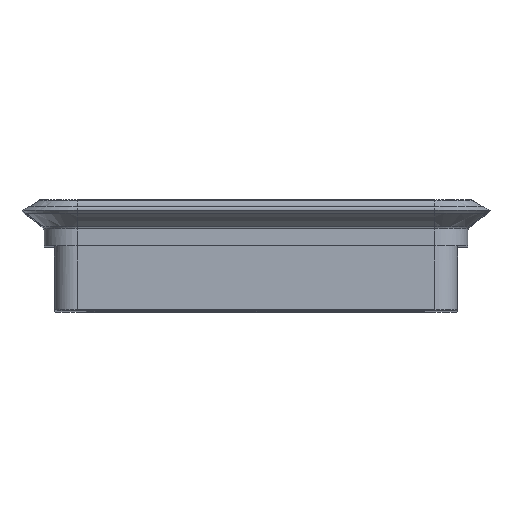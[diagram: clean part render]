
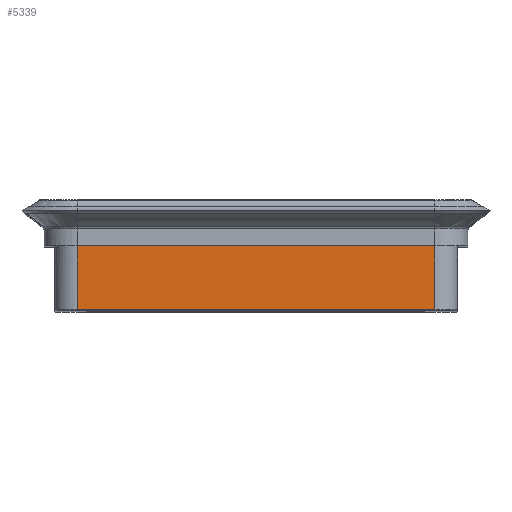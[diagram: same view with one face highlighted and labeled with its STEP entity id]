
A CAD part, top view. The second image highlights one B-rep face of the part: STEP entity #5339.
In plain terms, the highlighted planar face has unit normal (0, 0, 1).
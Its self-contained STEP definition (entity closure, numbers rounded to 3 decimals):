
#162 = DIRECTION ( 'NONE',  ( -1., 0., 0. ) ) ;
#608 = ORIENTED_EDGE ( 'NONE', *, *, #4901, .T. ) ;
#629 = CARTESIAN_POINT ( 'NONE',  ( -28.117, 0.2, 40.092 ) ) ;
#900 = CARTESIAN_POINT ( 'NONE',  ( -28.117, 10., 40.092 ) ) ;
#925 = PLANE ( 'NONE',  #4469 ) ;
#1031 = ORIENTED_EDGE ( 'NONE', *, *, #2102, .T. ) ;
#1265 = EDGE_CURVE ( 'NONE', #1871, #5825, #1669, .T. ) ;
#1421 = CARTESIAN_POINT ( 'NONE',  ( -31.618, -0.001, 40.092 ) ) ;
#1669 = LINE ( 'NONE', #3077, #2939 ) ;
#1871 = VERTEX_POINT ( 'NONE', #629 ) ;
#2102 = EDGE_CURVE ( 'NONE', #2144, #3163, #2334, .T. ) ;
#2108 = CARTESIAN_POINT ( 'NONE',  ( 26.883, 0.2, 40.092 ) ) ;
#2144 = VERTEX_POINT ( 'NONE', #4315 ) ;
#2334 = LINE ( 'NONE', #3206, #5907 ) ;
#2409 = ORIENTED_EDGE ( 'NONE', *, *, #1265, .T. ) ;
#2550 = LINE ( 'NONE', #2108, #3428 ) ;
#2650 = DIRECTION ( 'NONE',  ( 0., 1., 0. ) ) ;
#2939 = VECTOR ( 'NONE', #5603, 1000. ) ;
#3077 = CARTESIAN_POINT ( 'NONE',  ( -28.117, 0.2, 40.092 ) ) ;
#3163 = VERTEX_POINT ( 'NONE', #900 ) ;
#3171 = ORIENTED_EDGE ( 'NONE', *, *, #5408, .F. ) ;
#3206 = CARTESIAN_POINT ( 'NONE',  ( 26.883, 10., 40.092 ) ) ;
#3428 = VECTOR ( 'NONE', #2650, 1000. ) ;
#3705 = EDGE_LOOP ( 'NONE', ( #3171, #2409, #608, #1031 ) ) ;
#4315 = CARTESIAN_POINT ( 'NONE',  ( 26.883, 10., 40.092 ) ) ;
#4371 = CARTESIAN_POINT ( 'NONE',  ( 26.883, 0.2, 40.092 ) ) ;
#4469 = AXIS2_PLACEMENT_3D ( 'NONE', #1421, #5044, #5574 ) ;
#4901 = EDGE_CURVE ( 'NONE', #5825, #2144, #2550, .T. ) ;
#5044 = DIRECTION ( 'NONE',  ( 0., 0., 1. ) ) ;
#5339 = ADVANCED_FACE ( 'NONE', ( #5761 ), #925, .T. ) ;
#5408 = EDGE_CURVE ( 'NONE', #1871, #3163, #5679, .T. ) ;
#5574 = DIRECTION ( 'NONE',  ( 1., 0., 0. ) ) ;
#5603 = DIRECTION ( 'NONE',  ( 1., 0., 0. ) ) ;
#5644 = CARTESIAN_POINT ( 'NONE',  ( -28.117, 0.2, 40.092 ) ) ;
#5679 = LINE ( 'NONE', #5644, #5926 ) ;
#5761 = FACE_OUTER_BOUND ( 'NONE', #3705, .T. ) ;
#5825 = VERTEX_POINT ( 'NONE', #4371 ) ;
#5907 = VECTOR ( 'NONE', #162, 1000. ) ;
#5926 = VECTOR ( 'NONE', #6175, 1000. ) ;
#6175 = DIRECTION ( 'NONE',  ( 0., 1., 0. ) ) ;
